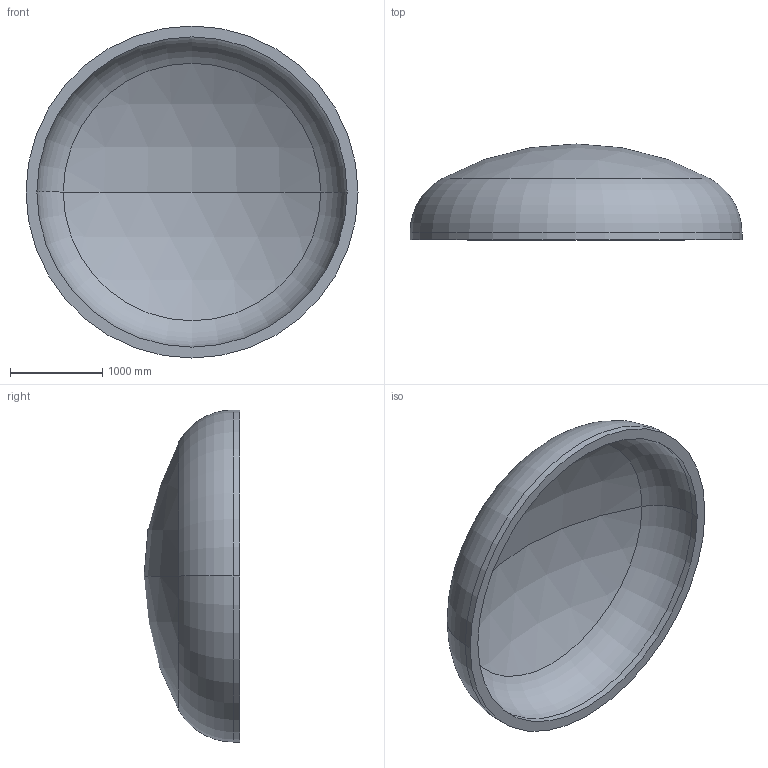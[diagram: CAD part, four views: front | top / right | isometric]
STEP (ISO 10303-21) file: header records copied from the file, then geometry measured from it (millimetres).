
FILE_DESCRIPTION (( 'STEP AP203' ), '1' );
FILE_NAME ('DIN 28013 Korbbogenform_-_Boden DIN 28013 - 3600 x 75 - I - s=118.step', '2016-07-01T20:55:16', ( '' ), ( '' ), 'SwSTEP 2.0', 'SolidWorks 2013', '' );
FILE_SCHEMA (( 'CONFIG_CONTROL_DESIGN' ));
Length unit declared in the file: millimetre
Products named in the file (1): DIN 28013 Korbbogenform_-_Boden DIN 28013 - 3600 x 75 - I - s=118
Bounding box: 3600 x 1039.41 x 3600 mm (x, y, z)
Volume: 1691080936.5 mm3; surface area: 29982346.6 mm2
Topology: 1 solids, 1 shells, 13 faces, 24 edges, 14 vertices
Faces by surface type: torus 4, cylinder 4, sphere 4, plane 1
Entity records: 407 total; most frequent: DIRECTION 72, CARTESIAN_POINT 52, ORIENTED_EDGE 48, AXIS2_PLACEMENT_3D 34, EDGE_CURVE 24, CIRCLE 20, VERTEX_POINT 14, EDGE_LOOP 14
